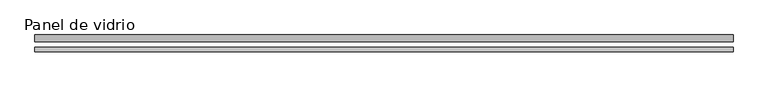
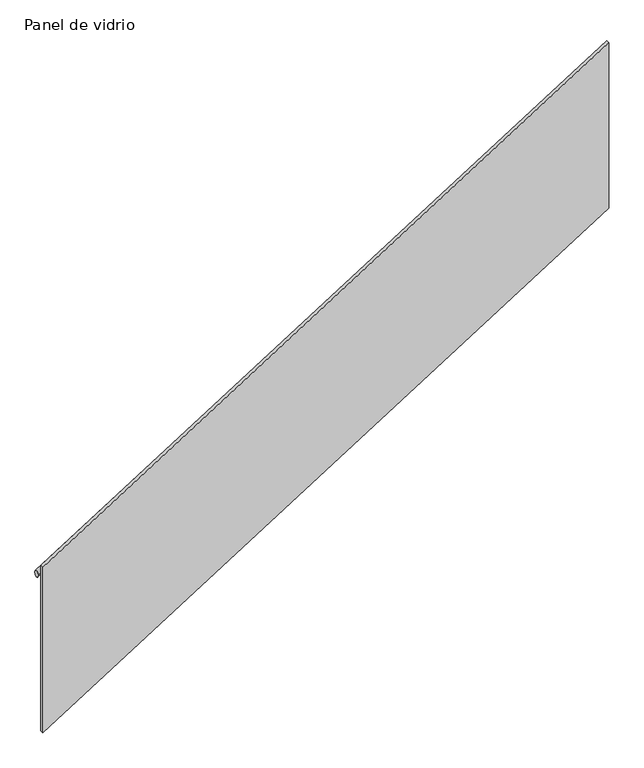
"""IFC4 building model written with IfcOpenShell, lengths in millimetres: railing geometry, Panel de vidrio."""

from ifc_helpers import new_model, si_unit, frame, origin, place, context, project, spatial, ellipse_curve, faceted_brep, source, transform, mapped, element, save
from ifc_brep_helpers import plane_surface, cylinder_surface, advanced_brep


def panel_de_vidrio_07b2d974(model_context):
    return source(origin(), model_context, "Body", "SolidModel", [
        faceted_brep([(47630.8645778, 30357.1040653, 13360.9319109), (47630.8645778, 30382.1040653, 13360.9319109), (47630.8645778, 30382.1040653, 12119.7902889), (47630.8645778, 30357.1040653, 12119.7902889), (51650.8645778, 30357.1040653, 15894.5453563), (51650.8645778, 30357.1040653, 14653.4037343), (51650.8645778, 30382.1040653, 14653.4037343), (51650.8645778, 30382.1040653, 15894.5453563)], [[[0, 1, 2, 3]], [[4, 5, 6, 7]], [[1, 0, 4, 7]], [[2, 1, 7, 6]], [[3, 2, 6, 5]], [[0, 3, 5, 4]]]),
        advanced_brep(
        [(47630.8645778, 30454.0104696, 13266.3865546), (47630.8645778, 30414.0104696, 13266.3865546), (51650.8645778, 30454.0104696, 15800.0), (51650.8645778, 30414.0104696, 15800.0)],
        [
            (0, 1, ellipse_curve(frame((47630.8645778, 30434.0104696, 13266.3865546), z_axis=(-1.0, 0.0, 0.0), x_axis=(0.0, 0.0, -1.0)), 23.6407928, 20.0)),
            (1, 0, ellipse_curve(frame((47630.8645778, 30434.0104696, 13266.3865546), z_axis=(-1.0, 0.0, 0.0), x_axis=(0.0, 0.0, -1.0)), 23.6407928, 20.0)),
            (2, 3, ellipse_curve(frame((51650.8645778, 30434.0104696, 15800.0), z_axis=(1.0, 0.0, 0.0), x_axis=(0.0, 0.0, -1.0)), 23.6407928, 20.0)),
            (3, 2, ellipse_curve(frame((51650.8645778, 30434.0104696, 15800.0), z_axis=(1.0, 0.0, 0.0), x_axis=(0.0, 0.0, -1.0)), 23.6407928, 20.0)),
            (0, 2),
            (3, 1),
        ],
        [
            plane_surface(frame((47630.8645778, 30434.0104696, 13266.3865546), z_axis=(-1.0, 0.0, 0.0), x_axis=(0.0, 1.0, 0.0))),
            plane_surface(frame((51650.8645778, 30434.0104696, 15800.0), z_axis=(1.0, 0.0, 0.0), x_axis=(0.0, 1.0, 0.0))),
            cylinder_surface(frame((47630.8645778, 30434.0104696, 13266.3865546), z_axis=(-0.8459953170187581, 0.0, -0.5331903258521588), x_axis=(0.0, -1.0, 0.0)), 20.0),
        ],
        [
            (0, [[1, 2]]),
            (1, [[3, 4]]),
            (2, [[-1, 5, -4, 6]]),
            (2, [[-2, -6, -3, -5]]),
        ],
    ),
    ])


if __name__ == "__main__":
    model = new_model("IFC4")
    model_context = context("Model", 3, world=origin())
    ifc_project = project(units=[si_unit("LENGTHUNIT", "METRE", prefix="MILLI")], contexts=[model_context])
    site = spatial("IfcSite", under=ifc_project)
    building = spatial("IfcBuilding", under=site)
    placement = place(None, origin())
    panel_de_vidrio_shape = panel_de_vidrio_07b2d974(model_context)
    element("IfcRailing", 1, ObjectType="Panel de vidrio", at=placement, inside=building, context=model_context, shape_type="MappedRepresentation", body=[
        mapped(panel_de_vidrio_shape, transform((0.0, 0.0, 0.0), x_axis=(1.0, 0.0, 0.0), y_axis=(0.0, 1.0, 0.0), z_axis=(0.0, 0.0, 1.0))),
    ])
    save(model, "model.ifc")
